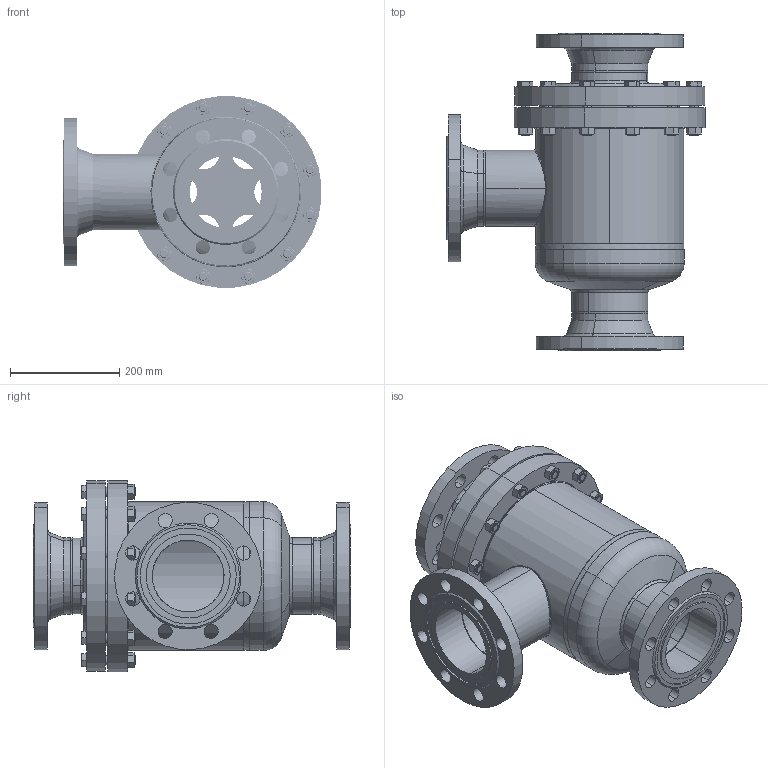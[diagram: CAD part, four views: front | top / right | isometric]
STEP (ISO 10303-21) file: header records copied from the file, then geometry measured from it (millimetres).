
FILE_DESCRIPTION (( 'STEP AP214' ), '1' );
FILE_NAME ('TR47020B20-DN125_DIN_PS25.STEP', '2005-08-10T11:26:38', ( 'Herr Grams' ), ( 'AWP GmbH' ), 'SwSTEP 2.0', 'SolidWorks 2002296', '' );
FILE_SCHEMA (( 'AUTOMOTIVE_DESIGN' ));
Length unit declared in the file: millimetre
Products named in the file (23): TR47020B20-DN125_DIN_PS25; TR47000B20-DN125_R1_PS25_Standard; Deckel47000B20_DN125_PS25_R1_Standard; loser Flansch47000B20_DN125_PS25_Standard; Geh-kpl47000B20-DN125_PS25_R1_Standard; Kopfring47000B20_DN125_PS25_Standard; RohrstutzE00000-DN125-150_PS40_R1_DN 125; Geh47000B20_DN125_PS25_R1_Standard; Boden47000B_DN125-150_PS25_DN125; RohrstutzA47000B20-DN125_PS40_R1_Standard; Kehlnaht20-2_Standard; Kehlnaht20-3_Standard; bead20-5_Standard; bead20-1_Standard; bead20-4_Standard; Führungsring47000E20-DN125_Standard; Andruckplatte47000E20-DN125_Standard; Sechskantschraube-DIN933-M16x90_M16x 90; Sechskantmutter-DIN934_M16; Flansch-DIN-Nut_PS40_DIN-Flansch-DN125_PS40-Nut; TR125-3_Standard; TR125-1_Standard; TR125-2_Standard
Assembly tree (46 placements, depth 4):
  TR47020B20-DN125_DIN_PS25
    TR47000B20-DN125_R1_PS25_Standard
      Geh-kpl47000B20-DN125_PS25_R1_Standard
        Kehlnaht20-3_Standard
        bead20-4_Standard
        Geh47000B20_DN125_PS25_R1_Standard
        bead20-5_Standard
        Kopfring47000B20_DN125_PS25_Standard
        Kehlnaht20-2_Standard
        bead20-1_Standard
        RohrstutzE00000-DN125-150_PS40_R1_DN 125
        Boden47000B_DN125-150_PS25_DN125
        RohrstutzA47000B20-DN125_PS40_R1_Standard
      Sechskantschraube-DIN933-M16x90_M16x 90  x12
      Sechskantmutter-DIN934_M16  x12
      Andruckplatte47000E20-DN125_Standard
      Deckel47000B20_DN125_PS25_R1_Standard
      loser Flansch47000B20_DN125_PS25_Standard
      Führungsring47000E20-DN125_Standard
    TR125-2_Standard
    Flansch-DIN-Nut_PS40_DIN-Flansch-DN125_PS40-Nut  x3
    TR125-3_Standard
    TR125-1_Standard
Bounding box: 474.33 x 582 x 350.66 mm (x, y, z)
Volume: 11772528.7 mm3; surface area: 2134499.3 mm2
Topology: 44 solids, 44 shells, 1450 faces, 3670 edges, 2320 vertices
Faces by surface type: cylinder 700, cone 398, plane 278, bspline 48, torus 18, sphere 8
Entity records: 38025 total; most frequent: CARTESIAN_POINT 27305, DIRECTION 2096, ORIENTED_EDGE 1974, EDGE_CURVE 987, AXIS2_PLACEMENT_3D 909, VERTEX_POINT 630, EDGE_LOOP 539, CIRCLE 478
